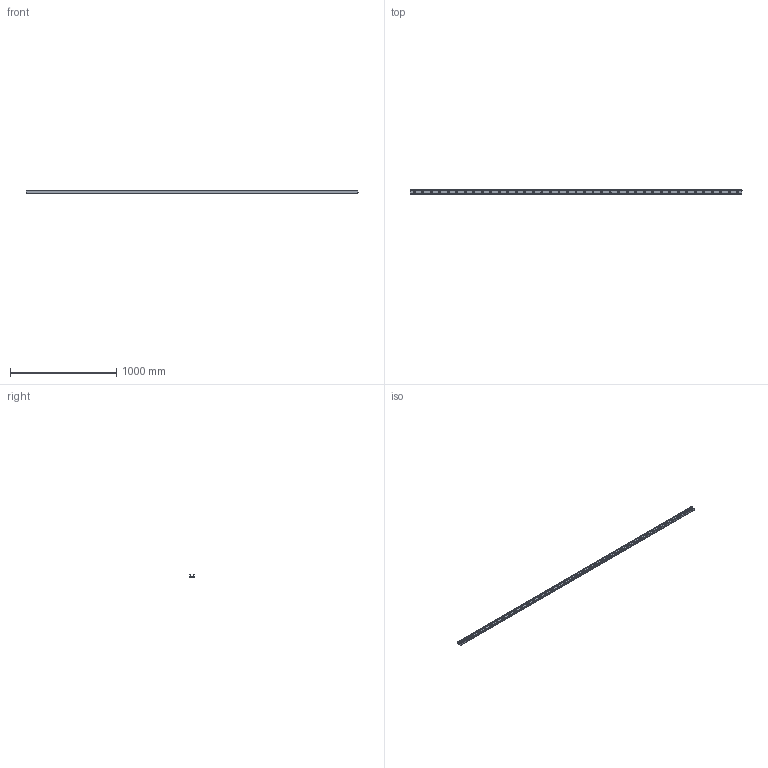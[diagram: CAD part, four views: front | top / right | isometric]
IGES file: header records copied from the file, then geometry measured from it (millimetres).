
Start section: SolidWorks IGES file using analytic representation for surfaces
Global section: file name: C:\Users\IanO\Desktop\43\L1943.ULC43_v2_20180121_IGES\L1943.ULC43-3120.igs; native system: SolidWorks 2017; preprocessor: SolidWorks 2017; author: IanO; date: 190121.085210; units: millimetre
Bounding box: 3120 x 43 x 21 mm (x, y, z)
Surface area: 489250.4 mm2 (no closed solid volume)
Topology: 0 solids, 0 shells, 221 faces, 5910 edges, 5910 vertices
Faces by surface type: revolution 169, bspline 52
